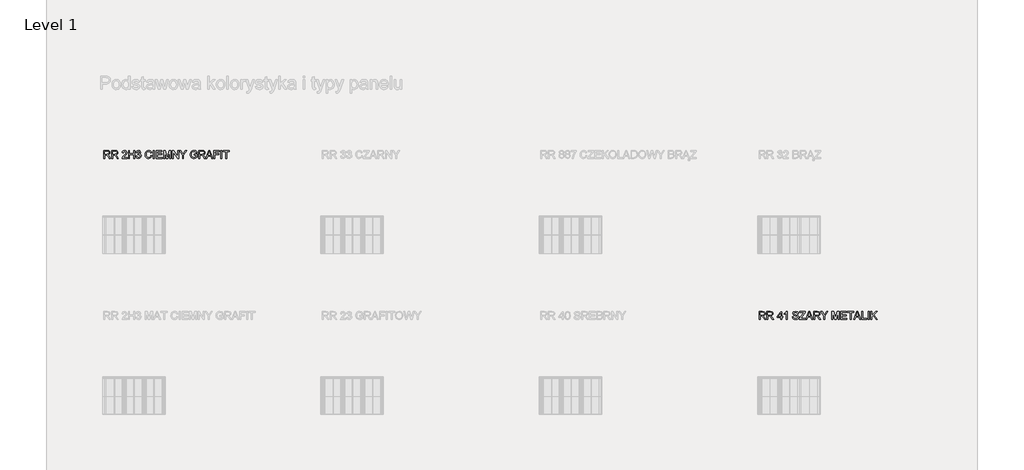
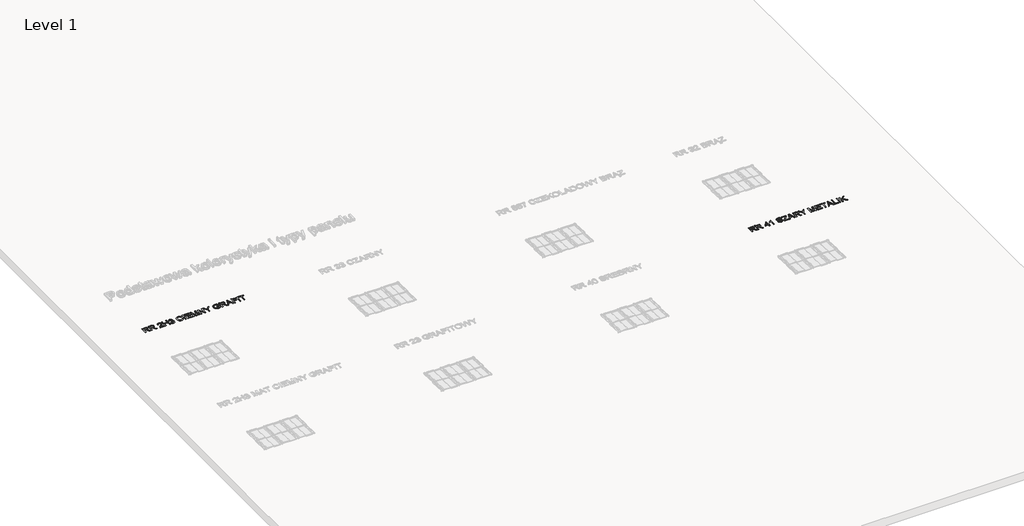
# One storey, part 6 of 9: 2 proxies.
"""IFC4 building model written with IfcOpenShell, lengths in millimetres."""

import ifcopenshell
import ifcopenshell.guid

model = None  # the IFC model being written
_history = None  # IfcOwnerHistory: only IFC2X3 demands one
_inside = {}  # id of a spatial element -> (the spatial element, [elements in it])
_under = {}  # id of a project, library or spatial element -> (it, [spatial elements below it])
_declared = {}  # id of a project -> (the project, [libraries it declares])
_typed = {}  # id of a type object -> (the type object, [elements of that type])
_made_of = {}  # id of a material, layer set ... -> (it, [elements and type objects made of it])


def new_model(schema):
    """Start an empty IFC model of exactly this schema.

    Asked for "IFC4X3", IfcOpenShell would pick the latest addendum, in which some entities
    have other attributes; the version numbers below select the first issue.
    IFC2X3 requires an IfcOwnerHistory on every rooted entity: one is made here for all.
    """
    global model, _history
    if schema == "IFC4X3":
        model = ifcopenshell.file(schema_version=(4, 3, 0, 0))
    else:
        model = ifcopenshell.file(schema=schema)
    _inside.clear()
    _under.clear()
    _declared.clear()
    _typed.clear()
    _made_of.clear()
    _history = None
    if model.schema == "IFC2X3":
        org = make("IfcOrganization", Name="unknown")
        user = make(
            "IfcPersonAndOrganization",
            ThePerson=make("IfcPerson", FamilyName="unknown"),
            TheOrganization=org,
        )
        app = make(
            "IfcApplication",
            ApplicationDeveloper=org,
            Version="unknown",
            ApplicationFullName="unknown",
            ApplicationIdentifier="unknown",
        )
        _history = make(
            "IfcOwnerHistory",
            OwningUser=user,
            OwningApplication=app,
            ChangeAction="ADDED",
            CreationDate=0,
        )
    return model


def make(cls, **values):
    """One entity of the class cls with the attributes given. An attribute that is None is left unset."""
    return model.create_entity(
        cls, **{name: value for name, value in values.items() if value is not None}
    )


def rooted(cls, **values):
    """An entity with a GlobalId (a new one), such as an element, a storey or a relation."""
    return make(cls, GlobalId=ifcopenshell.guid.new(), OwnerHistory=_history, **values)


def si_unit(unit_type, name, prefix=None):
    """IfcSIUnit, for example si_unit("LENGTHUNIT", "METRE", prefix="MILLI")."""
    return make("IfcSIUnit", UnitType=unit_type, Prefix=prefix, Name=name)


def assignment(units):
    """IfcUnitAssignment: the units of a project."""
    return None if units is None else make("IfcUnitAssignment", Units=units)


def point(xyz):
    """IfcCartesianPoint."""
    return None if xyz is None else make("IfcCartesianPoint", Coordinates=xyz)


def direction(xyz):
    """IfcDirection."""
    return None if xyz is None else make("IfcDirection", DirectionRatios=xyz)


def frame(location, z_axis=None, x_axis=None):
    """IfcAxis2Placement3D, a coordinate frame: its origin and axes. An axis left out is left unset."""
    return make(
        "IfcAxis2Placement3D",
        Location=point(location),
        Axis=direction(z_axis),
        RefDirection=direction(x_axis),
    )


def origin():
    """The frame at (0, 0, 0) with its axes left unset."""
    return frame((0.0, 0.0, 0.0))


def place(relative_to, where):
    """IfcLocalPlacement: puts the frame where relative to a parent placement (None: the world)."""
    return make(
        "IfcLocalPlacement", PlacementRelTo=relative_to, RelativePlacement=where
    )


def context(
    kind, dimensions, precision=None, world=None, true_north=None, identifier=None
):
    """IfcGeometricRepresentationContext, for example the 3D "Model" context."""
    return make(
        "IfcGeometricRepresentationContext",
        ContextIdentifier=identifier,
        ContextType=kind,
        CoordinateSpaceDimension=dimensions,
        Precision=precision,
        WorldCoordinateSystem=world,
        TrueNorth=true_north,
    )


def project(units=None, contexts=None):
    """IfcProject with its units and contexts."""
    return rooted(
        "IfcProject",
        Name="project",
        RepresentationContexts=contexts,
        UnitsInContext=assignment(units),
    )


def spatial(cls, under=None, at=None, **own):
    """A site, building, storey or space (cls), placed at a placement, below another one or the project."""
    s = rooted(cls, ObjectPlacement=at, **own)
    if under is not None:
        _under.setdefault(under.id(), (under, []))[1].append(s)
    return s


def polyline(points):
    """IfcPolyline through the points."""
    return make("IfcPolyline", Points=[point(p) for p in points])


def outline(outer, holes=None, kind="AREA"):
    """IfcArbitraryClosedProfileDef: a profile drawn as a closed curve; with holes, ...WithVoids."""
    if holes is None:
        return make("IfcArbitraryClosedProfileDef", ProfileType=kind, OuterCurve=outer)
    return make(
        "IfcArbitraryProfileDefWithVoids",
        ProfileType=kind,
        OuterCurve=outer,
        InnerCurves=holes,
    )


def extrude(swept, where, along, depth):
    """IfcExtrudedAreaSolid: the profile swept, set in the frame where, extruded along a direction by depth."""
    return make(
        "IfcExtrudedAreaSolid",
        SweptArea=swept,
        Position=where,
        ExtrudedDirection=direction(along),
        Depth=depth,
    )


def shape(context_of_items, identifier, shape_type, items):
    """IfcShapeRepresentation: the items that make up one representation, for example the "Body"."""
    return make(
        "IfcShapeRepresentation",
        ContextOfItems=context_of_items,
        RepresentationIdentifier=identifier,
        RepresentationType=shape_type,
        Items=items,
    )


def made_of(thing, what):
    """Note that an element or type object is made of a material, layer set ...; save() writes the relation."""
    if what is not None:
        _made_of.setdefault(what.id(), (what, []))[1].append(thing)
    return thing


def element(
    cls,
    number,
    at=None,
    inside=None,
    cuts=None,
    type_object=None,
    material=None,
    context=None,
    identifier="Body",
    shape_type=None,
    held_by="IfcProductDefinitionShape",
    body=None,
    shapes=None,
    **own,
):
    """One element of the class cls, such as IfcWall. Its Tag is "e" and its number.

    at: its placement. inside: the storey or other place that contains it. cuts: it is an
    opening in that element (IfcRelVoidsElement). A single representation is given by context,
    identifier, shape_type and body (its items); several are given by shapes. held_by: the class
    of the entity that holds the representations. save() writes the other relations.
    """
    e = rooted(cls, Tag="e%d" % number, ObjectPlacement=at, **own)
    if body is not None:
        shapes = [shape(context, identifier, shape_type, body)]
    if shapes is not None:
        e.Representation = make(held_by, Representations=shapes)
    if inside is not None:
        _inside.setdefault(inside.id(), (inside, []))[1].append(e)
    if cuts is not None:
        rooted(
            "IfcRelVoidsElement", RelatingBuildingElement=cuts, RelatedOpeningElement=e
        )
    if type_object is not None:
        _typed.setdefault(type_object.id(), (type_object, []))[1].append(e)
    return made_of(e, material)


def aggregate(whole, parts):
    """IfcRelAggregates: a whole, such as a stair, and the parts it consists of."""
    return rooted("IfcRelAggregates", RelatingObject=whole, RelatedObjects=parts)


def save(model, path):
    """Write the relations noted so far, then the file.

    IfcRelAggregates (storeys below a building ...), IfcRelContainedInSpatialStructure (elements
    in a storey), IfcRelDefinesByType, IfcRelAssociatesMaterial and IfcRelDeclares: one each for
    every whole, place, type object, material and project.
    """
    for whole, parts in _under.values():
        aggregate(whole, parts)
    for where, things in _inside.values():
        rooted(
            "IfcRelContainedInSpatialStructure",
            RelatedElements=things,
            RelatingStructure=where,
        )
    for kind, things in _typed.values():
        rooted("IfcRelDefinesByType", RelatedObjects=things, RelatingType=kind)
    for what, things in _made_of.values():
        rooted("IfcRelAssociatesMaterial", RelatedObjects=things, RelatingMaterial=what)
    for by, libraries in _declared.values():
        rooted("IfcRelDeclares", RelatingContext=by, RelatedDefinitions=libraries)
    model.write(path)


model = new_model("IFC4")

# Units and contexts
model_context = context("Model", 3, world=origin())
ifc_project = project(units=[si_unit("LENGTHUNIT", "METRE", prefix="MILLI")], contexts=[model_context])

# Site, building, storey
site = spatial("IfcSite", under=ifc_project)
building = spatial("IfcBuilding", under=site)
storey = spatial("IfcBuildingStorey", under=building, Name="Level 1", Elevation=0.0)

# Proxies
placement = place(None, origin())
element("IfcBuildingElementProxy", 1, Name="150 Blue", ObjectType="150 Blue", at=placement, inside=storey, context=model_context, shape_type="SweptSolid", body=[
    extrude(outline(polyline([(-8736.4118342, 1464.3485888), (-8736.4118342, 1615.033054), (-8671.4806621, 1615.033054), (-8641.3327325, 1610.967958), (-8632.0529092, 1605.3393635), (-8624.8516192, 1596.583772), (-8620.2301016, 1585.7266546), (-8618.6895957, 1573.7934824), (-8621.2417771, 1558.9494439), (-8628.8983211, 1546.6437911), (-8641.8891541, 1537.6214852), (-8660.4442022, 1532.6274871), (-8649.7388361, 1524.5708714), (-8634.4717333, 1505.1834903), (-8609.3453931, 1464.3485888), (-8631.2343718, 1464.3485888), (-8650.8424821, 1495.5817702), (-8665.0059389, 1516.2567383), (-8674.9571469, 1526.0240053), (-8683.9150735, 1529.6108548), (-8694.8411687, 1530.2730423), (-8717.576276, 1530.2730423), (-8717.576276, 1464.3485888), (-8736.4118342, 1464.3485888)]), holes=[polyline([(-8717.576276, 1549.1086005), (-8675.4169994, 1549.1086005), (-8653.9142968, 1551.775745), (-8641.7006145, 1560.3106073), (-8637.5251539, 1573.0945066), (-8639.5163152, 1582.2823594), (-8645.4897991, 1589.6859846), (-8655.7675023, 1594.5696181), (-8670.6713217, 1596.1974959), (-8717.576276, 1596.1974959), (-8717.576276, 1549.1086005)])]), frame((0.0, 0.0, 600.0), z_axis=(0.0, 0.0, 1.0), x_axis=(1.0, 0.0, 0.0)), (0.0, 0.0, 1.0), 10.0),
    extrude(outline(polyline([(-8585.727369, 1464.3485888), (-8585.727369, 1615.033054), (-8520.7961968, 1615.033054), (-8490.6482673, 1610.967958), (-8481.368444, 1605.3393635), (-8474.1671539, 1596.583772), (-8469.5456364, 1585.7266546), (-8468.0051305, 1573.7934824), (-8470.5573119, 1558.9494439), (-8478.2138559, 1546.6437911), (-8491.2046888, 1537.6214852), (-8509.759737, 1532.6274871), (-8499.0543709, 1524.5708714), (-8483.7872681, 1505.1834903), (-8458.6609278, 1464.3485888), (-8480.5499066, 1464.3485888), (-8500.1580169, 1495.5817702), (-8514.3214737, 1516.2567383), (-8524.2726817, 1526.0240053), (-8533.2306083, 1529.6108548), (-8544.1567035, 1530.2730423), (-8566.8918108, 1530.2730423), (-8566.8918108, 1464.3485888), (-8585.727369, 1464.3485888)]), holes=[polyline([(-8566.8918108, 1549.1086005), (-8524.7325342, 1549.1086005), (-8503.2298316, 1551.775745), (-8491.0161493, 1560.3106073), (-8486.8406887, 1573.0945066), (-8488.83185, 1582.2823594), (-8494.8053339, 1589.6859846), (-8505.0830371, 1594.5696181), (-8519.9868564, 1596.1974959), (-8566.8918108, 1596.1974959), (-8566.8918108, 1549.1086005)])]), frame((0.0, 0.0, 600.0), z_axis=(0.0, 0.0, 1.0), x_axis=(1.0, 0.0, 0.0)), (0.0, 0.0, 1.0), 10.0),
    extrude(outline(polyline([(-8286.7128833, 1483.184147), (-8286.7128833, 1464.3485888), (-8385.5995636, 1464.3485888), (-8383.5762126, 1477.3348232), (-8372.1166885, 1497.3292097), (-8348.5170585, 1519.1630061), (-8316.0146842, 1550.5433403), (-8309.9308357, 1561.3590709), (-8307.9028862, 1571.880496), (-8309.8204711, 1581.3120707), (-8315.5732258, 1589.1525557), (-8324.4161893, 1594.4362608), (-8335.6044005, 1596.1974959), (-8347.3536317, 1594.4776476), (-8356.4817037, 1589.3181026), (-8362.3724141, 1581.1235311), (-8364.4095607, 1570.2986034), (-8383.2451188, 1572.6530482), (-8378.6787836, 1590.872404), (-8368.8057505, 1604.1805352), (-8354.1410545, 1612.3199243), (-8335.1997303, 1615.033054), (-8316.1204503, 1612.0164217), (-8301.4833454, 1602.9665246), (-8292.1713324, 1589.4468613), (-8289.0673281, 1573.0209302), (-8292.4150542, 1555.1602593), (-8303.5434846, 1536.6925832), (-8330.5276289, 1510.8856612), (-8352.1958784, 1492.7674729), (-8360.6939525, 1483.184147), (-8286.7128833, 1483.184147)])), frame((0.0, 0.0, 600.0), z_axis=(0.0, 0.0, 1.0), x_axis=(1.0, 0.0, 0.0)), (0.0, 0.0, 1.0), 10.0),
    extrude(outline(polyline([(-8260.8139908, 1464.3485888), (-8260.8139908, 1615.033054), (-8241.9784327, 1615.033054), (-8241.9784327, 1553.81749), (-8161.9273105, 1553.81749), (-8161.9273105, 1615.033054), (-8143.0917524, 1615.033054), (-8143.0917524, 1464.3485888), (-8161.9273105, 1464.3485888), (-8161.9273105, 1534.9819319), (-8241.9784327, 1534.9819319), (-8241.9784327, 1464.3485888), (-8260.8139908, 1464.3485888)])), frame((0.0, 0.0, 600.0), z_axis=(0.0, 0.0, 1.0), x_axis=(1.0, 0.0, 0.0)), (0.0, 0.0, 1.0), 10.0),
    extrude(outline(polyline([(-8117.1928599, 1504.3741499), (-8098.3573018, 1506.7285947), (-8094.1404544, 1494.8919915), (-8087.9646354, 1486.8997551), (-8079.5263421, 1482.3472154), (-8068.522072, 1480.8297022), (-8055.6094139, 1482.9174325), (-8045.6398119, 1489.1806235), (-8039.2662563, 1498.5248262), (-8037.1417378, 1509.8555916), (-8039.2478622, 1520.6115414), (-8045.5662355, 1529.3349433), (-8055.1311673, 1535.1152891), (-8066.9769676, 1537.0420711), (-8080.1839312, 1534.9819319), (-8078.0870038, 1553.81749), (-8075.0703715, 1553.5967608), (-8053.6964276, 1559.0046262), (-8046.5779109, 1565.8656254), (-8044.2050721, 1575.6328924), (-8045.9249204, 1583.767683), (-8051.0844654, 1590.3665663), (-8058.9571401, 1594.7397635), (-8068.8163776, 1596.1974959), (-8078.6940091, 1594.7259679), (-8086.7690189, 1590.311384), (-8092.6643279, 1582.9537441), (-8096.002857, 1572.6530482), (-8114.8384152, 1575.007493), (-8109.2925941, 1591.9208677), (-8099.4241596, 1604.5484172), (-8085.9228903, 1612.4118948), (-8069.4785651, 1615.033054), (-8046.7618519, 1609.864312), (-8030.8693498, 1595.7376434), (-8025.3695139, 1576.7365383), (-8030.5934383, 1559.3725082), (-8046.0444821, 1546.9013085), (-8034.2538641, 1542.1372367), (-8025.5166667, 1534.0254387), (-8020.1088014, 1523.0073729), (-8018.3061796, 1509.5244978), (-8021.9114232, 1491.1671863), (-8032.7271538, 1475.8265071), (-8049.0519174, 1465.4522348), (-8069.1842596, 1461.994144), (-8087.3944183, 1464.9463971), (-8102.2200627, 1473.8031561), (-8112.5299556, 1487.3504106), (-8117.1928599, 1504.3741499)])), frame((0.0, 0.0, 600.0), z_axis=(0.0, 0.0, 1.0), x_axis=(1.0, 0.0, 0.0)), (0.0, 0.0, 1.0), 10.0),
    extrude(outline(polyline([(-7829.9505981, 1517.9122073), (-7811.1150399, 1513.056165), (-7819.8062521, 1491.1074054), (-7833.445477, 1475.072349), (-7851.3613302, 1465.2636953), (-7872.8824269, 1461.994144), (-7894.7300189, 1464.4681505), (-7912.0802535, 1471.8901697), (-7925.3791876, 1484.0026844), (-7935.0728782, 1500.5481771), (-7940.9911798, 1519.9999376), (-7942.963947, 1540.8312556), (-7940.7336624, 1562.8030078), (-7934.0428086, 1581.7765217), (-7923.2408735, 1597.1493905), (-7908.6773451, 1608.3192076), (-7891.4052854, 1615.120426), (-7872.4777567, 1617.3874988), (-7851.8257812, 1614.4536399), (-7834.7514581, 1605.6520632), (-7821.7882163, 1591.5253945), (-7813.4694847, 1572.61626), (-7832.3050429, 1568.1280997), (-7838.8349483, 1581.8638936), (-7847.7560867, 1591.2862712), (-7859.1788226, 1596.7355233), (-7873.2135207, 1598.5519407), (-7889.3911315, 1596.5377867), (-7902.6808685, 1590.495325), (-7912.7654337, 1581.0591518), (-7919.3275288, 1568.8638636), (-7924.1283889, 1540.8680438), (-7922.7074446, 1523.4672254), (-7918.444612, 1508.4208518), (-7911.1789426, 1496.3037386), (-7900.7494881, 1487.6907014), (-7888.2460987, 1482.544952), (-7874.7586251, 1480.8297022), (-7859.0362683, 1483.1657529), (-7845.9350708, 1490.1739049), (-7836.0436436, 1501.7805818), (-7829.9505981, 1517.9122073)])), frame((0.0, 0.0, 600.0), z_axis=(0.0, 0.0, 1.0), x_axis=(1.0, 0.0, 0.0)), (0.0, 0.0, 1.0), 10.0),
    extrude(outline(polyline([(-7782.8617027, 1464.3485888), (-7782.8617027, 1615.033054), (-7764.0261446, 1615.033054), (-7764.0261446, 1464.3485888), (-7782.8617027, 1464.3485888)])), frame((0.0, 0.0, 600.0), z_axis=(0.0, 0.0, 1.0), x_axis=(1.0, 0.0, 0.0)), (0.0, 0.0, 1.0), 10.0),
    extrude(outline(polyline([(-7726.3550282, 1464.3485888), (-7726.3550282, 1615.033054), (-7618.0505689, 1615.033054), (-7618.0505689, 1596.1974959), (-7707.5194701, 1596.1974959), (-7707.5194701, 1551.4630453), (-7622.7594584, 1551.4630453), (-7622.7594584, 1532.6274871), (-7707.5194701, 1532.6274871), (-7707.5194701, 1483.184147), (-7615.6961241, 1483.184147), (-7615.6961241, 1464.3485888), (-7726.3550282, 1464.3485888)])), frame((0.0, 0.0, 600.0), z_axis=(0.0, 0.0, 1.0), x_axis=(1.0, 0.0, 0.0)), (0.0, 0.0, 1.0), 10.0),
    extrude(outline(polyline([(-7587.4427869, 1464.3485888), (-7587.4427869, 1615.033054), (-7555.1427477, 1615.033054), (-7524.2406601, 1508.825522), (-7517.9866662, 1486.6422377), (-7511.2544257, 1510.664932), (-7480.9409493, 1615.033054), (-7448.5305455, 1615.033054), (-7448.5305455, 1464.3485888), (-7467.3661036, 1464.3485888), (-7467.3661036, 1596.1974959), (-7505.2211609, 1464.3485888), (-7530.7153832, 1464.3485888), (-7568.6072287, 1596.1974959), (-7568.6072287, 1464.3485888), (-7587.4427869, 1464.3485888)])), frame((0.0, 0.0, 600.0), z_axis=(0.0, 0.0, 1.0), x_axis=(1.0, 0.0, 0.0)), (0.0, 0.0, 1.0), 10.0),
    extrude(outline(polyline([(-7415.5683187, 1464.3485888), (-7415.5683187, 1615.033054), (-7395.4083854, 1615.033054), (-7316.6816384, 1495.6553466), (-7316.6816384, 1615.033054), (-7297.8460803, 1615.033054), (-7297.8460803, 1464.3485888), (-7318.0060136, 1464.3485888), (-7396.7327606, 1583.7630844), (-7396.7327606, 1464.3485888), (-7415.5683187, 1464.3485888)])), frame((0.0, 0.0, 600.0), z_axis=(0.0, 0.0, 1.0), x_axis=(1.0, 0.0, 0.0)), (0.0, 0.0, 1.0), 10.0),
    extrude(outline(polyline([(-7222.5038477, 1464.3485888), (-7222.5038477, 1528.176115), (-7281.3649669, 1615.033054), (-7259.1816826, 1615.033054), (-7227.7645602, 1568.6431344), (-7211.688117, 1544.951534), (-7195.5380974, 1570.3353916), (-7167.0272428, 1615.033054), (-7144.8071703, 1615.033054), (-7203.6682895, 1528.176115), (-7203.6682895, 1464.3485888), (-7222.5038477, 1464.3485888)])), frame((0.0, 0.0, 600.0), z_axis=(0.0, 0.0, 1.0), x_axis=(1.0, 0.0, 0.0)), (0.0, 0.0, 1.0), 10.0),
    extrude(outline(polyline([(-6998.8315946, 1523.209708), (-6998.8315946, 1542.0452662), (-6937.6160306, 1542.0452662), (-6937.6160306, 1485.7225327), (-6967.8375365, 1467.9538324), (-6999.7880878, 1461.994144), (-7020.9183099, 1464.3623844), (-7040.0159839, 1471.4671054), (-7055.880895, 1483.0599868), (-7067.312828, 1498.8927082), (-7074.224411, 1517.8846162), (-7076.528272, 1538.9550574), (-7074.233608, 1560.17725), (-7067.3496162, 1579.9187176), (-7056.161405, 1596.4780059), (-7040.954083, 1608.1536607), (-7022.4312246, 1615.0790393), (-7001.296404, 1617.3874988), (-6971.8290561, 1612.0348158), (-6960.0798249, 1605.6336691), (-6951.1724821, 1597.135595), (-6939.7865344, 1572.2115898), (-6957.1505645, 1567.3187593), (-6965.7406091, 1584.7379717), (-6980.4191007, 1594.7811502), (-7001.5907095, 1598.5519407), (-7025.7053743, 1594.4868446), (-7042.1129113, 1583.8182667), (-7051.8066019, 1569.305322), (-7057.6927138, 1539.7276096), (-7055.9222817, 1521.7151874), (-7050.6109854, 1506.8941416), (-7041.9197733, 1495.3702381), (-7030.0095937, 1487.249243), (-7016.0714646, 1482.4345874), (-7001.296404, 1480.8297022), (-6975.5262702, 1485.6673504), (-6956.4515887, 1495.9864404), (-6956.4515887, 1523.209708), (-6998.8315946, 1523.209708)])), frame((0.0, 0.0, 600.0), z_axis=(0.0, 0.0, 1.0), x_axis=(1.0, 0.0, 0.0)), (0.0, 0.0, 1.0), 10.0),
    extrude(outline(polyline([(-6907.0082486, 1464.3485888), (-6907.0082486, 1615.033054), (-6842.0770764, 1615.033054), (-6811.9291469, 1610.967958), (-6802.6493236, 1605.3393635), (-6795.4480336, 1596.583772), (-6790.826516, 1585.7266546), (-6789.2860101, 1573.7934824), (-6791.8381915, 1558.9494439), (-6799.4947355, 1546.6437911), (-6812.4855685, 1537.6214852), (-6831.0406166, 1532.6274871), (-6820.3352505, 1524.5708714), (-6805.0681477, 1505.1834903), (-6779.9418075, 1464.3485888), (-6801.8307862, 1464.3485888), (-6821.4388965, 1495.5817702), (-6835.6023533, 1516.2567383), (-6845.5535613, 1526.0240053), (-6854.5114879, 1529.6108548), (-6865.4375831, 1530.2730423), (-6888.1726904, 1530.2730423), (-6888.1726904, 1464.3485888), (-6907.0082486, 1464.3485888)]), holes=[polyline([(-6888.1726904, 1549.1086005), (-6846.0134138, 1549.1086005), (-6824.5107112, 1551.775745), (-6812.2970289, 1560.3106073), (-6808.1215683, 1573.0945066), (-6810.1127296, 1582.2823594), (-6816.0862135, 1589.6859846), (-6826.3639167, 1594.5696181), (-6841.267736, 1596.1974959), (-6888.1726904, 1596.1974959), (-6888.1726904, 1549.1086005)])]), frame((0.0, 0.0, 600.0), z_axis=(0.0, 0.0, 1.0), x_axis=(1.0, 0.0, 0.0)), (0.0, 0.0, 1.0), 10.0),
    extrude(outline(polyline([(-6773.8349663, 1464.3485888), (-6713.6862601, 1615.033054), (-6697.6466051, 1615.033054), (-6637.5346871, 1464.3485888), (-6657.4371031, 1464.3485888), (-6674.6539804, 1511.4374842), (-6736.7524612, 1511.4374842), (-6753.9693386, 1464.3485888), (-6773.8349663, 1464.3485888)]), holes=[polyline([(-6729.8362797, 1530.2730423), (-6681.5333737, 1530.2730423), (-6695.1450076, 1567.3187593), (-6705.7032208, 1596.1974959), (-6715.0842117, 1570.5561208), (-6729.8362797, 1530.2730423)])]), frame((0.0, 0.0, 600.0), z_axis=(0.0, 0.0, 1.0), x_axis=(1.0, 0.0, 0.0)), (0.0, 0.0, 1.0), 10.0),
    extrude(outline(polyline([(-6617.411542, 1464.3485888), (-6617.411542, 1615.033054), (-6516.1704169, 1615.033054), (-6516.1704169, 1596.1974959), (-6598.5759838, 1596.1974959), (-6598.5759838, 1551.4630453), (-6527.9426408, 1551.4630453), (-6527.9426408, 1532.6274871), (-6598.5759838, 1532.6274871), (-6598.5759838, 1464.3485888), (-6617.411542, 1464.3485888)])), frame((0.0, 0.0, 600.0), z_axis=(0.0, 0.0, 1.0), x_axis=(1.0, 0.0, 0.0)), (0.0, 0.0, 1.0), 10.0),
    extrude(outline(polyline([(-6487.9170797, 1464.3485888), (-6487.9170797, 1615.033054), (-6469.0815215, 1615.033054), (-6469.0815215, 1464.3485888), (-6487.9170797, 1464.3485888)])), frame((0.0, 0.0, 600.0), z_axis=(0.0, 0.0, 1.0), x_axis=(1.0, 0.0, 0.0)), (0.0, 0.0, 1.0), 10.0),
    extrude(outline(polyline([(-6393.7392889, 1464.3485888), (-6393.7392889, 1596.1974959), (-6443.1826291, 1596.1974959), (-6443.1826291, 1615.033054), (-6325.4603906, 1615.033054), (-6325.4603906, 1596.1974959), (-6374.9037308, 1596.1974959), (-6374.9037308, 1464.3485888), (-6393.7392889, 1464.3485888)])), frame((0.0, 0.0, 600.0), z_axis=(0.0, 0.0, 1.0), x_axis=(1.0, 0.0, 0.0)), (0.0, 0.0, 1.0), 10.0),
])
element("IfcBuildingElementProxy", 2, Name="150 Blue", ObjectType="150 Blue", at=placement, inside=storey, context=model_context, shape_type="SweptSolid", body=[
    extrude(outline(polyline([(3863.5881658, -1635.6514112), (3863.5881658, -1484.966946), (3928.5193379, -1484.966946), (3958.6672675, -1489.032042), (3967.9470908, -1494.6606365), (3975.1483808, -1503.416228), (3979.7698984, -1514.2733454), (3981.3104043, -1526.2065176), (3978.7582229, -1541.0505561), (3971.1016789, -1553.3562089), (3958.1108459, -1562.3785148), (3939.5557978, -1567.3725129), (3950.2611639, -1575.4291286), (3965.5282667, -1594.8165097), (3990.6546069, -1635.6514112), (3968.7656282, -1635.6514112), (3949.1575179, -1604.4182298), (3934.9940611, -1583.7432617), (3925.0428531, -1573.9759947), (3916.0849265, -1570.3891452), (3905.1588313, -1569.7269577), (3882.423724, -1569.7269577), (3882.423724, -1635.6514112), (3863.5881658, -1635.6514112)]), holes=[polyline([(3882.423724, -1550.8913995), (3924.5830006, -1550.8913995), (3946.0857032, -1548.224255), (3958.2993855, -1539.6893927), (3962.4748461, -1526.9054934), (3960.4836848, -1517.7176406), (3954.5102009, -1510.3140154), (3944.2324977, -1505.4303819), (3929.3286783, -1503.8025041), (3882.423724, -1503.8025041), (3882.423724, -1550.8913995)])]), frame((0.0, 0.0, 600.0), z_axis=(0.0, 0.0, 1.0), x_axis=(1.0, 0.0, 0.0)), (0.0, 0.0, 1.0), 10.0),
    extrude(outline(polyline([(4014.272631, -1635.6514112), (4014.272631, -1484.966946), (4079.2038032, -1484.966946), (4109.3517327, -1489.032042), (4118.631556, -1494.6606365), (4125.8328461, -1503.416228), (4130.4543636, -1514.2733454), (4131.9948695, -1526.2065176), (4129.4426881, -1541.0505561), (4121.7861441, -1553.3562089), (4108.7953112, -1562.3785148), (4090.240263, -1567.3725129), (4100.9456291, -1575.4291286), (4116.2127319, -1594.8165097), (4141.3390722, -1635.6514112), (4119.4500934, -1635.6514112), (4099.8419831, -1604.4182298), (4085.6785263, -1583.7432617), (4075.7273183, -1573.9759947), (4066.7693917, -1570.3891452), (4055.8432965, -1569.7269577), (4033.1081892, -1569.7269577), (4033.1081892, -1635.6514112), (4014.272631, -1635.6514112)]), holes=[polyline([(4033.1081892, -1550.8913995), (4075.2674658, -1550.8913995), (4096.7701684, -1548.224255), (4108.9838507, -1539.6893927), (4113.1593113, -1526.9054934), (4111.16815, -1517.7176406), (4105.1946661, -1510.3140154), (4094.9169629, -1505.4303819), (4080.0131436, -1503.8025041), (4033.1081892, -1503.8025041), (4033.1081892, -1550.8913995)])]), frame((0.0, 0.0, 600.0), z_axis=(0.0, 0.0, 1.0), x_axis=(1.0, 0.0, 0.0)), (0.0, 0.0, 1.0), 10.0),
    extrude(outline(polyline([(4277.9704452, -1635.6514112), (4277.9704452, -1600.3347397), (4209.6915469, -1600.3347397), (4209.6915469, -1581.4991815), (4282.6793347, -1487.3213907), (4296.8060033, -1487.3213907), (4296.8060033, -1581.4991815), (4315.6415615, -1581.4991815), (4315.6415615, -1600.3347397), (4296.8060033, -1600.3347397), (4296.8060033, -1635.6514112), (4277.9704452, -1635.6514112)]), holes=[polyline([(4277.9704452, -1581.4991815), (4277.9704452, -1523.3002499), (4232.8681126, -1581.4991815), (4277.9704452, -1581.4991815)])]), frame((0.0, 0.0, 600.0), z_axis=(0.0, 0.0, 1.0), x_axis=(1.0, 0.0, 0.0)), (0.0, 0.0, 1.0), 10.0),
    extrude(outline(polyline([(4402.7560179, -1635.6514112), (4383.9204598, -1635.6514112), (4383.9204598, -1518.2234783), (4366.078183, -1530.9338013), (4346.2493435, -1540.4435508), (4346.2493435, -1522.6380623), (4373.8588872, -1505.0165147), (4390.6159121, -1484.966946), (4402.7560179, -1484.966946), (4402.7560179, -1635.6514112)])), frame((0.0, 0.0, 600.0), z_axis=(0.0, 0.0, 1.0), x_axis=(1.0, 0.0, 0.0)), (0.0, 0.0, 1.0), 10.0),
    extrude(outline(polyline([(4506.3515878, -1583.8536263), (4525.1871459, -1583.8536263), (4531.2571988, -1602.7075785), (4546.0828432, -1614.6269552), (4568.6707978, -1619.1702978), (4588.3524845, -1615.7306011), (4601.0628074, -1606.2760339), (4605.2382681, -1593.6392873), (4602.1112711, -1581.8854576), (4589.3089777, -1573.3322012), (4561.8833749, -1566.1401082), (4532.3608448, -1556.8510878), (4516.3395839, -1542.8347838), (4511.0604773, -1524.1095903), (4512.6929537, -1513.0777289), (4517.5903827, -1502.7908286), (4525.6240058, -1494.0720253), (4536.6650642, -1487.744455), (4564.5873076, -1482.6125012), (4594.3857492, -1487.9835783), (4605.8084852, -1494.6146513), (4614.251377, -1503.7657159), (4619.5948629, -1514.8665551), (4621.7193815, -1527.3469518), (4602.8838233, -1527.3469518), (4599.4257326, -1516.1081569), (4592.2152454, -1507.9963589), (4580.9488593, -1503.0851342), (4565.3230716, -1501.4480593), (4549.3294019, -1503.0667401), (4538.3573214, -1507.9227825), (4532.0113569, -1515.0688902), (4529.8960355, -1523.5577673), (4531.3951546, -1530.7958455), (4535.892512, -1536.6175781), (4566.6474468, -1547.1390031), (4599.9775555, -1556.5935704), (4610.7151113, -1563.4269785), (4618.2061084, -1571.8606732), (4622.6068968, -1581.8026841), (4624.0738262, -1593.1610407), (4622.3861676, -1604.7723162), (4617.3231916, -1615.6938129), (4609.091832, -1625.0931979), (4597.8990223, -1632.1381381), (4584.4391398, -1636.5389265), (4569.4065617, -1638.005856), (4550.9526812, -1636.4239634), (4535.7637533, -1631.6782856), (4523.6650342, -1623.7504286), (4514.4817799, -1612.6219983), (4508.5864709, -1599.0655468), (4506.3515878, -1583.8536263)])), frame((0.0, 0.0, 600.0), z_axis=(0.0, 0.0, 1.0), x_axis=(1.0, 0.0, 0.0)), (0.0, 0.0, 1.0), 10.0),
    extrude(outline(polyline([(4640.5549396, -1635.6514112), (4640.5549396, -1616.1168772), (4717.5894294, -1521.7183573), (4732.2311328, -1503.8025041), (4649.9727187, -1503.8025041), (4649.9727187, -1484.966946), (4755.9227333, -1484.966946), (4755.9227333, -1503.8025041), (4671.60418, -1607.1037684), (4663.6579289, -1616.815853), (4758.2771781, -1616.815853), (4758.2771781, -1635.6514112), (4640.5549396, -1635.6514112)])), frame((0.0, 0.0, 600.0), z_axis=(0.0, 0.0, 1.0), x_axis=(1.0, 0.0, 0.0)), (0.0, 0.0, 1.0), 10.0),
    extrude(outline(polyline([(4761.955998, -1635.6514112), (4822.1047042, -1484.966946), (4838.1443592, -1484.966946), (4898.2562772, -1635.6514112), (4878.3538613, -1635.6514112), (4861.1369839, -1588.5625158), (4799.0385031, -1588.5625158), (4781.8216258, -1635.6514112), (4761.955998, -1635.6514112)]), holes=[polyline([(4805.9546846, -1569.7269577), (4854.2575906, -1569.7269577), (4840.6459568, -1532.6812407), (4830.0877435, -1503.8025041), (4820.7067526, -1529.4438792), (4805.9546846, -1569.7269577)])]), frame((0.0, 0.0, 600.0), z_axis=(0.0, 0.0, 1.0), x_axis=(1.0, 0.0, 0.0)), (0.0, 0.0, 1.0), 10.0),
    extrude(outline(polyline([(4918.3794224, -1635.6514112), (4918.3794224, -1484.966946), (4983.3105945, -1484.966946), (5013.458524, -1489.032042), (5022.7383474, -1494.6606365), (5029.9396374, -1503.416228), (5034.561155, -1514.2733454), (5036.1016608, -1526.2065176), (5033.5494795, -1541.0505561), (5025.8929355, -1553.3562089), (5012.9021025, -1562.3785148), (4994.3470544, -1567.3725129), (5005.0524204, -1575.4291286), (5020.3195232, -1594.8165097), (5045.4458635, -1635.6514112), (5023.5568848, -1635.6514112), (5003.9487744, -1604.4182298), (4989.7853176, -1583.7432617), (4979.8341097, -1573.9759947), (4970.8761831, -1570.3891452), (4959.9500878, -1569.7269577), (4937.2149805, -1569.7269577), (4937.2149805, -1635.6514112), (4918.3794224, -1635.6514112)]), holes=[polyline([(4937.2149805, -1550.8913995), (4979.3742572, -1550.8913995), (5000.8769598, -1548.224255), (5013.090642, -1539.6893927), (5017.2661027, -1526.9054934), (5015.2749414, -1517.7176406), (5009.3014575, -1510.3140154), (4999.0237542, -1505.4303819), (4984.1199349, -1503.8025041), (4937.2149805, -1503.8025041), (4937.2149805, -1550.8913995)])]), frame((0.0, 0.0, 600.0), z_axis=(0.0, 0.0, 1.0), x_axis=(1.0, 0.0, 0.0)), (0.0, 0.0, 1.0), 10.0),
    extrude(outline(polyline([(5111.4438934, -1635.6514112), (5111.4438934, -1571.823885), (5052.5827742, -1484.966946), (5074.7660585, -1484.966946), (5106.1831809, -1531.3568656), (5122.2596241, -1555.048466), (5138.4096437, -1529.6646084), (5166.9204983, -1484.966946), (5189.1405708, -1484.966946), (5130.2794516, -1571.823885), (5130.2794516, -1635.6514112), (5111.4438934, -1635.6514112)])), frame((0.0, 0.0, 600.0), z_axis=(0.0, 0.0, 1.0), x_axis=(1.0, 0.0, 0.0)), (0.0, 0.0, 1.0), 10.0),
    extrude(outline(polyline([(5264.4828034, -1635.6514112), (5264.4828034, -1484.966946), (5296.7828426, -1484.966946), (5327.6849302, -1591.174478), (5333.9389241, -1613.3577623), (5340.6711646, -1589.335068), (5370.984641, -1484.966946), (5403.3950448, -1484.966946), (5403.3950448, -1635.6514112), (5384.5594867, -1635.6514112), (5384.5594867, -1503.8025041), (5346.7044294, -1635.6514112), (5321.2102071, -1635.6514112), (5283.3183616, -1503.8025041), (5283.3183616, -1635.6514112), (5264.4828034, -1635.6514112)])), frame((0.0, 0.0, 600.0), z_axis=(0.0, 0.0, 1.0), x_axis=(1.0, 0.0, 0.0)), (0.0, 0.0, 1.0), 10.0),
    extrude(outline(polyline([(5436.3572716, -1635.6514112), (5436.3572716, -1484.966946), (5544.661731, -1484.966946), (5544.661731, -1503.8025041), (5455.1928297, -1503.8025041), (5455.1928297, -1548.5369547), (5539.9528414, -1548.5369547), (5539.9528414, -1567.3725129), (5455.1928297, -1567.3725129), (5455.1928297, -1616.815853), (5547.0161757, -1616.815853), (5547.0161757, -1635.6514112), (5436.3572716, -1635.6514112)])), frame((0.0, 0.0, 600.0), z_axis=(0.0, 0.0, 1.0), x_axis=(1.0, 0.0, 0.0)), (0.0, 0.0, 1.0), 10.0),
    extrude(outline(polyline([(5612.9406293, -1635.6514112), (5612.9406293, -1503.8025041), (5563.4972891, -1503.8025041), (5563.4972891, -1484.966946), (5681.2195276, -1484.966946), (5681.2195276, -1503.8025041), (5631.7761874, -1503.8025041), (5631.7761874, -1635.6514112), (5612.9406293, -1635.6514112)])), frame((0.0, 0.0, 600.0), z_axis=(0.0, 0.0, 1.0), x_axis=(1.0, 0.0, 0.0)), (0.0, 0.0, 1.0), 10.0),
    extrude(outline(polyline([(5684.8983475, -1635.6514112), (5745.0470537, -1484.966946), (5761.0867087, -1484.966946), (5821.1986267, -1635.6514112), (5801.2962108, -1635.6514112), (5784.0793334, -1588.5625158), (5721.9808526, -1588.5625158), (5704.7639753, -1635.6514112), (5684.8983475, -1635.6514112)]), holes=[polyline([(5728.8970341, -1569.7269577), (5777.1999401, -1569.7269577), (5763.5883063, -1532.6812407), (5753.030093, -1503.8025041), (5743.6491021, -1529.4438792), (5728.8970341, -1569.7269577)])]), frame((0.0, 0.0, 600.0), z_axis=(0.0, 0.0, 1.0), x_axis=(1.0, 0.0, 0.0)), (0.0, 0.0, 1.0), 10.0),
    extrude(outline(polyline([(5841.3217719, -1635.6514112), (5841.3217719, -1484.966946), (5860.15733, -1484.966946), (5860.15733, -1616.815853), (5935.4995626, -1616.815853), (5935.4995626, -1635.6514112), (5841.3217719, -1635.6514112)])), frame((0.0, 0.0, 600.0), z_axis=(0.0, 0.0, 1.0), x_axis=(1.0, 0.0, 0.0)), (0.0, 0.0, 1.0), 10.0),
    extrude(outline(polyline([(5959.0440103, -1635.6514112), (5959.0440103, -1484.966946), (5977.8795685, -1484.966946), (5977.8795685, -1635.6514112), (5959.0440103, -1635.6514112)])), frame((0.0, 0.0, 600.0), z_axis=(0.0, 0.0, 1.0), x_axis=(1.0, 0.0, 0.0)), (0.0, 0.0, 1.0), 10.0),
    extrude(outline(polyline([(6015.5506848, -1635.6514112), (6015.5506848, -1484.966946), (6034.3862429, -1484.966946), (6034.3862429, -1558.727286), (6111.6414619, -1484.966946), (6137.9818128, -1484.966946), (6073.0874288, -1546.918274), (6140.3362575, -1635.6514112), (6117.3068446, -1635.6514112), (6059.7333124, -1559.646991), (6034.3862429, -1583.8536263), (6034.3862429, -1635.6514112), (6015.5506848, -1635.6514112)])), frame((0.0, 0.0, 600.0), z_axis=(0.0, 0.0, 1.0), x_axis=(1.0, 0.0, 0.0)), (0.0, 0.0, 1.0), 10.0),
])

save(model, "model.ifc")
